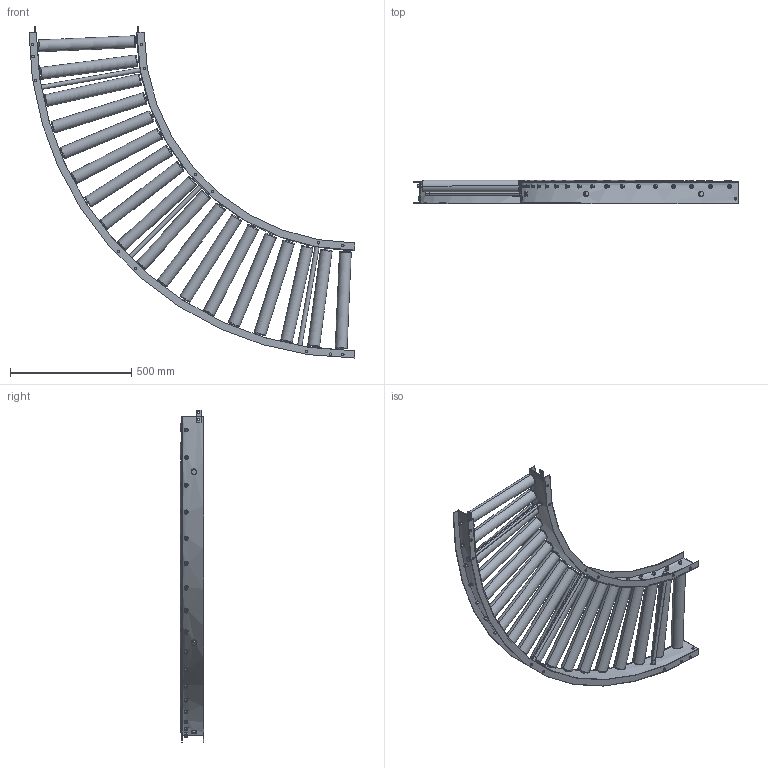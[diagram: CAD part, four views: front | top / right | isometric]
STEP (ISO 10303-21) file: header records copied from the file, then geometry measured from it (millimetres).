
FILE_DESCRIPTION (( 'STEP AP203' ), '1' );
FILE_NAME ('R-4814NB_C.step', '2024-03-15T02:32:34', ( '' ), ( '' ), 'SwSTEP 2.0', 'SolidWorks 2023', '' );
FILE_SCHEMA (( 'CONFIG_CONTROL_DESIGN' ));
Length unit declared in the file: millimetre
Products named in the file (1): R-4814NB_C
Bounding box: 1345 x 95.8 x 1370.08 mm (x, y, z)
Volume: 14188816.5 mm3; surface area: 3140537.8 mm2
Topology: 55 solids, 55 shells, 820 faces, 1896 edges, 1228 vertices
Faces by surface type: cylinder 406, plane 306, torus 72, cone 36
Entity records: 30605 total; most frequent: CARTESIAN_POINT 11349, DIRECTION 4102, ORIENTED_EDGE 3792, EDGE_CURVE 1896, AXIS2_PLACEMENT_3D 1701, VERTEX_POINT 1228, EDGE_LOOP 1068, CIRCLE 880
